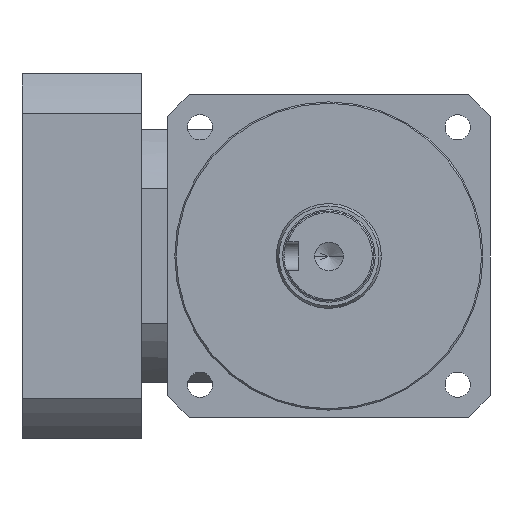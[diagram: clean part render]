
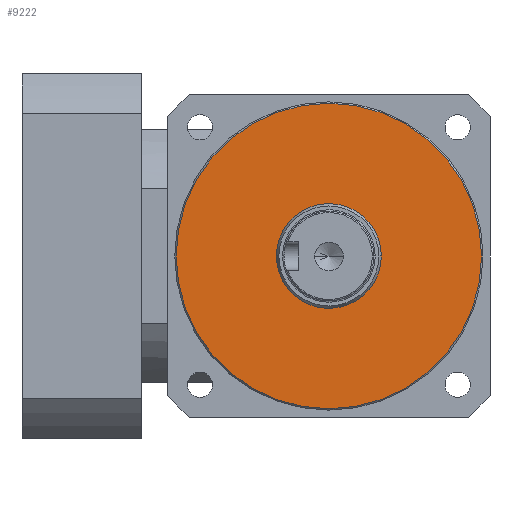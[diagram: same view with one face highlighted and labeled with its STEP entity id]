
A CAD part, left-side view. The second image highlights one B-rep face of the part: STEP entity #9222.
In plain terms, the highlighted planar face has unit normal (-1, 0, 0).
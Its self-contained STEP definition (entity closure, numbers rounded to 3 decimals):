
#168 = CIRCLE ( 'NONE', #9182, 54.5 ) ;
#1205 = CARTESIAN_POINT ( 'NONE',  ( -242.019, 391.674, -45. ) ) ;
#1547 = ORIENTED_EDGE ( 'NONE', *, *, #17705, .F. ) ;
#1582 = AXIS2_PLACEMENT_3D ( 'NONE', #13021, #14693, #16694 ) ;
#1751 = VERTEX_POINT ( 'NONE', #18536 ) ;
#1787 = DIRECTION ( 'NONE',  ( 0., 1., 0. ) ) ;
#2981 = CARTESIAN_POINT ( 'NONE',  ( -242.019, 372.962, -45. ) ) ;
#3155 = FACE_OUTER_BOUND ( 'NONE', #5272, .T. ) ;
#3250 = DIRECTION ( 'NONE',  ( 0., 1., 0. ) ) ;
#3316 = ORIENTED_EDGE ( 'NONE', *, *, #6200, .F. ) ;
#3723 = DIRECTION ( 'NONE',  ( -1., 0., 0. ) ) ;
#3830 = EDGE_CURVE ( 'NONE', #1751, #9572, #19527, .T. ) ;
#5253 = CARTESIAN_POINT ( 'NONE',  ( -242.019, 391.674, -45. ) ) ;
#5272 = EDGE_LOOP ( 'NONE', ( #3316, #1547 ) ) ;
#5560 = CARTESIAN_POINT ( 'NONE',  ( -242.019, 446.174, -45. ) ) ;
#5792 = FACE_BOUND ( 'NONE', #12858, .T. ) ;
#6200 = EDGE_CURVE ( 'NONE', #11434, #14533, #19252, .T. ) ;
#8528 = EDGE_CURVE ( 'NONE', #9572, #1751, #19437, .T. ) ;
#8853 = AXIS2_PLACEMENT_3D ( 'NONE', #13357, #13507, #1787 ) ;
#9182 = AXIS2_PLACEMENT_3D ( 'NONE', #13424, #13273, #3250 ) ;
#9222 = ADVANCED_FACE ( 'NONE', ( #5792, #3155 ), #14843, .F. ) ;
#9572 = VERTEX_POINT ( 'NONE', #2981 ) ;
#9580 = DIRECTION ( 'NONE',  ( 0., 1., 0. ) ) ;
#10135 = ORIENTED_EDGE ( 'NONE', *, *, #3830, .F. ) ;
#11434 = VERTEX_POINT ( 'NONE', #5560 ) ;
#12052 = ORIENTED_EDGE ( 'NONE', *, *, #8528, .F. ) ;
#12858 = EDGE_LOOP ( 'NONE', ( #10135, #12052 ) ) ;
#13021 = CARTESIAN_POINT ( 'NONE',  ( -242.019, 391.674, -92.5 ) ) ;
#13273 = DIRECTION ( 'NONE',  ( 1., 0., 0. ) ) ;
#13357 = CARTESIAN_POINT ( 'NONE',  ( -242.019, 391.674, -45. ) ) ;
#13424 = CARTESIAN_POINT ( 'NONE',  ( -242.019, 391.674, -45. ) ) ;
#13507 = DIRECTION ( 'NONE',  ( -1., 0., 0. ) ) ;
#14533 = VERTEX_POINT ( 'NONE', #18443 ) ;
#14553 = DIRECTION ( 'NONE',  ( 1., 0., 0. ) ) ;
#14693 = DIRECTION ( 'NONE',  ( 1., 0., 0. ) ) ;
#14843 = PLANE ( 'NONE',  #1582 ) ;
#16412 = AXIS2_PLACEMENT_3D ( 'NONE', #5253, #3723, #18808 ) ;
#16694 = DIRECTION ( 'NONE',  ( 0., 0., -1. ) ) ;
#17705 = EDGE_CURVE ( 'NONE', #14533, #11434, #168, .T. ) ;
#18443 = CARTESIAN_POINT ( 'NONE',  ( -242.019, 337.174, -45. ) ) ;
#18536 = CARTESIAN_POINT ( 'NONE',  ( -242.019, 410.385, -45. ) ) ;
#18808 = DIRECTION ( 'NONE',  ( 0., 1., 0. ) ) ;
#19031 = AXIS2_PLACEMENT_3D ( 'NONE', #1205, #14553, #9580 ) ;
#19252 = CIRCLE ( 'NONE', #19031, 54.5 ) ;
#19437 = CIRCLE ( 'NONE', #16412, 18.711 ) ;
#19527 = CIRCLE ( 'NONE', #8853, 18.711 ) ;
